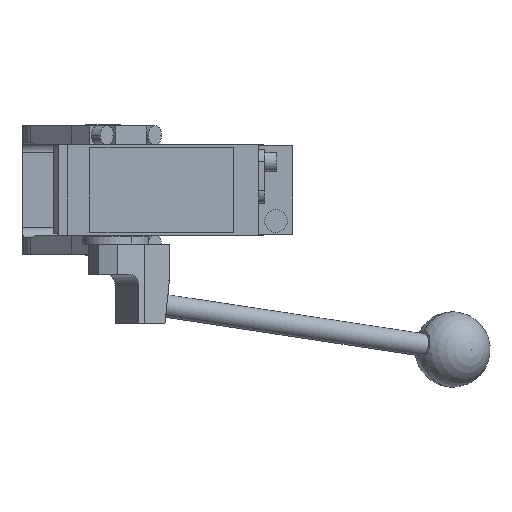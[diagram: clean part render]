
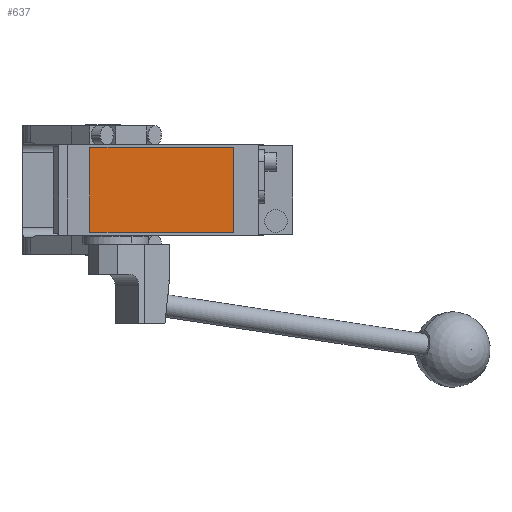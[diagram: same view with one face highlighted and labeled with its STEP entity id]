
A CAD part, front view. The second image highlights one B-rep face of the part: STEP entity #637.
In plain terms, the highlighted planar face has unit normal (0, -1, 0).
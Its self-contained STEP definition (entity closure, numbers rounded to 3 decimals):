
#174 = ORIENTED_EDGE ( 'NONE', *, *, #11798, .T. ) ;
#473 = VECTOR ( 'NONE', #8515, 1000. ) ;
#637 = ADVANCED_FACE ( 'NONE', ( #2900 ), #14510, .T. ) ;
#907 = DIRECTION ( 'NONE',  ( 1., 0., 0. ) ) ;
#1276 = VECTOR ( 'NONE', #11609, 1000. ) ;
#1308 = DIRECTION ( 'NONE',  ( 0., 0., -1. ) ) ;
#2185 = EDGE_CURVE ( 'NONE', #6969, #8566, #5189, .T. ) ;
#2381 = CARTESIAN_POINT ( 'NONE',  ( -7., -280.5, 22.5 ) ) ;
#2900 = FACE_OUTER_BOUND ( 'NONE', #14537, .T. ) ;
#3016 = CARTESIAN_POINT ( 'NONE',  ( 69., -280.5, 22.5 ) ) ;
#4403 = EDGE_CURVE ( 'NONE', #8686, #13123, #5803, .T. ) ;
#4741 = CARTESIAN_POINT ( 'NONE',  ( -7., -280.5, 22.5 ) ) ;
#4907 = ORIENTED_EDGE ( 'NONE', *, *, #2185, .T. ) ;
#5189 = LINE ( 'NONE', #5272, #473 ) ;
#5255 = DIRECTION ( 'NONE',  ( 0., 0., -1. ) ) ;
#5272 = CARTESIAN_POINT ( 'NONE',  ( 69., -280.5, 22.5 ) ) ;
#5803 = LINE ( 'NONE', #2381, #9327 ) ;
#6969 = VERTEX_POINT ( 'NONE', #8968 ) ;
#7636 = LINE ( 'NONE', #8695, #7882 ) ;
#7882 = VECTOR ( 'NONE', #907, 1000. ) ;
#8195 = LINE ( 'NONE', #4741, #1276 ) ;
#8515 = DIRECTION ( 'NONE',  ( 0., 0., 1. ) ) ;
#8566 = VERTEX_POINT ( 'NONE', #3016 ) ;
#8686 = VERTEX_POINT ( 'NONE', #13592 ) ;
#8695 = CARTESIAN_POINT ( 'NONE',  ( -7., -280.5, -22.5 ) ) ;
#8968 = CARTESIAN_POINT ( 'NONE',  ( 69., -280.5, -22.5 ) ) ;
#9327 = VECTOR ( 'NONE', #1308, 1000. ) ;
#9843 = CARTESIAN_POINT ( 'NONE',  ( -7., -280.5, -22.5 ) ) ;
#9919 = ORIENTED_EDGE ( 'NONE', *, *, #4403, .T. ) ;
#10996 = DIRECTION ( 'NONE',  ( 0., -1., 0. ) ) ;
#11609 = DIRECTION ( 'NONE',  ( -1., 0., 0. ) ) ;
#11798 = EDGE_CURVE ( 'NONE', #8566, #8686, #8195, .T. ) ;
#12115 = CARTESIAN_POINT ( 'NONE',  ( 0., -280.5, 0. ) ) ;
#12121 = ORIENTED_EDGE ( 'NONE', *, *, #14525, .T. ) ;
#12223 = AXIS2_PLACEMENT_3D ( 'NONE', #12115, #10996, #5255 ) ;
#13123 = VERTEX_POINT ( 'NONE', #9843 ) ;
#13592 = CARTESIAN_POINT ( 'NONE',  ( -7., -280.5, 22.5 ) ) ;
#14510 = PLANE ( 'NONE',  #12223 ) ;
#14525 = EDGE_CURVE ( 'NONE', #13123, #6969, #7636, .T. ) ;
#14537 = EDGE_LOOP ( 'NONE', ( #9919, #12121, #4907, #174 ) ) ;
